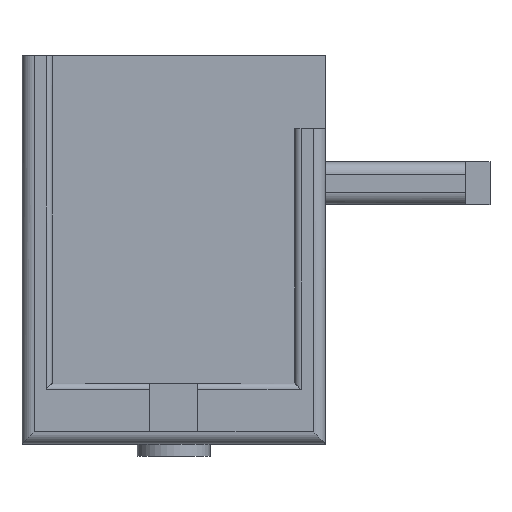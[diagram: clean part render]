
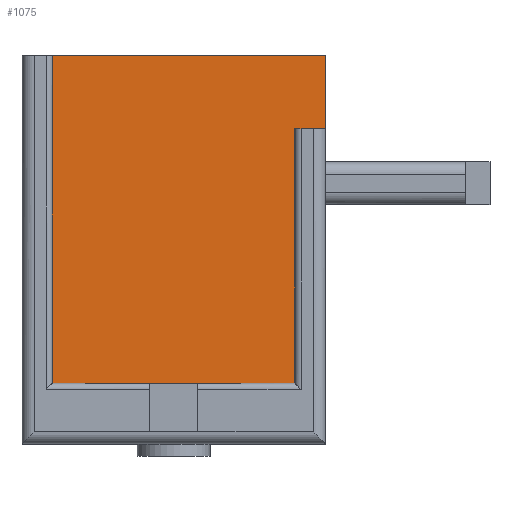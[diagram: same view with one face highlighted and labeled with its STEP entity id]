
A CAD part, top view. The second image highlights one B-rep face of the part: STEP entity #1075.
In plain terms, the highlighted planar face has unit normal (0, 0, 1).
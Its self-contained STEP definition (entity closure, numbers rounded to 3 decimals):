
#547=CARTESIAN_POINT('',(3.716,52.,0.71));
#548=VERTEX_POINT('',#547);
#551=CARTESIAN_POINT('',(3.716,64.,0.71));
#552=DIRECTION('',(0.,-1.,0.));
#553=VECTOR('',#552,1.);
#554=LINE('',#551,#553);
#555=CARTESIAN_POINT('',(3.716,10.,0.71));
#556=VERTEX_POINT('',#555);
#557=EDGE_CURVE('',#548,#556,#554,.T.);
#696=CARTESIAN_POINT('',(5.716,52.,0.71));
#697=VERTEX_POINT('',#696);
#1019=CARTESIAN_POINT('',(-42.284,10.,0.71));
#1020=VERTEX_POINT('',#1019);
#1023=CARTESIAN_POINT('',(-42.284,64.,0.71));
#1024=DIRECTION('',(0.,1.,0.));
#1025=VECTOR('',#1024,1.);
#1026=LINE('',#1023,#1025);
#1027=CARTESIAN_POINT('',(-42.284,64.,0.71));
#1028=VERTEX_POINT('',#1027);
#1029=EDGE_CURVE('',#1020,#1028,#1026,.T.);
#1040=CARTESIAN_POINT('',(-44.284,64.,0.71));
#1041=DIRECTION('',(0.,0.,-1.));
#1042=DIRECTION('',(-1.,0.,0.));
#1043=AXIS2_PLACEMENT_3D('',#1040,#1041,#1042);
#1044=PLANE('',#1043);
#1045=ORIENTED_EDGE('',*,*,#557,.F.);
#1046=CARTESIAN_POINT('',(-44.284,52.,0.71));
#1047=DIRECTION('',(1.,0.,0.));
#1048=VECTOR('',#1047,1.);
#1049=LINE('',#1046,#1048);
#1050=EDGE_CURVE('',#548,#697,#1049,.T.);
#1051=ORIENTED_EDGE('',*,*,#1050,.T.);
#1052=CARTESIAN_POINT('',(5.716,64.,0.71));
#1053=DIRECTION('',(0.,-1.,0.));
#1054=VECTOR('',#1053,1.);
#1055=LINE('',#1052,#1054);
#1056=CARTESIAN_POINT('',(5.716,64.,0.71));
#1057=VERTEX_POINT('',#1056);
#1058=EDGE_CURVE('',#1057,#697,#1055,.T.);
#1059=ORIENTED_EDGE('',*,*,#1058,.F.);
#1060=CARTESIAN_POINT('',(-44.284,64.,0.71));
#1061=DIRECTION('',(1.,0.,0.));
#1062=VECTOR('',#1061,1.);
#1063=LINE('',#1060,#1062);
#1064=EDGE_CURVE('',#1028,#1057,#1063,.T.);
#1065=ORIENTED_EDGE('',*,*,#1064,.F.);
#1066=ORIENTED_EDGE('',*,*,#1029,.F.);
#1067=CARTESIAN_POINT('',(-44.284,10.,0.71));
#1068=DIRECTION('',(1.,0.,0.));
#1069=VECTOR('',#1068,1.);
#1070=LINE('',#1067,#1069);
#1071=EDGE_CURVE('',#1020,#556,#1070,.T.);
#1072=ORIENTED_EDGE('',*,*,#1071,.T.);
#1073=EDGE_LOOP('',(#1045,#1051,#1059,#1065,#1066,#1072));
#1074=FACE_OUTER_BOUND('',#1073,.T.);
#1075=ADVANCED_FACE('',(#1074),#1044,.F.);
